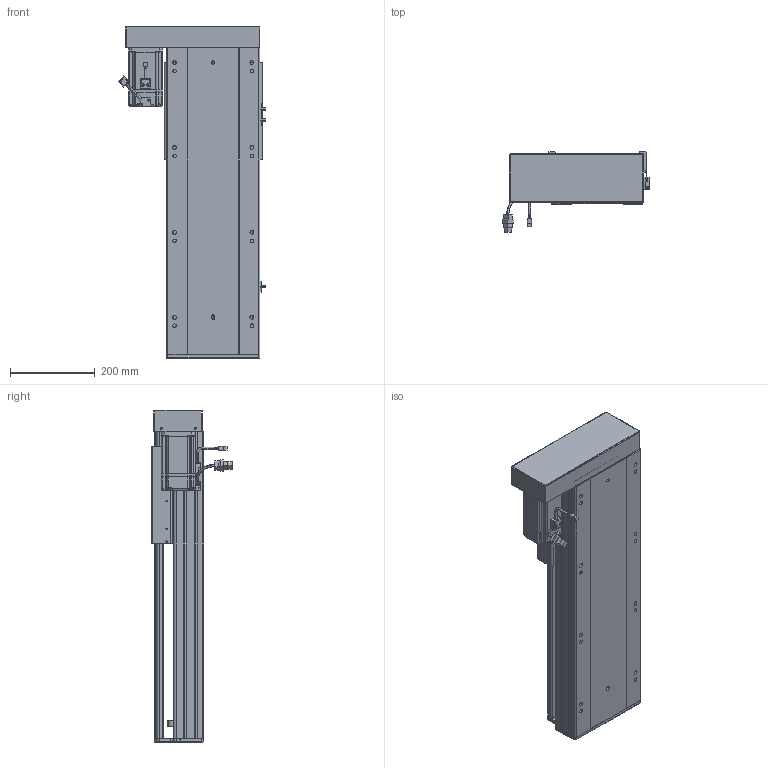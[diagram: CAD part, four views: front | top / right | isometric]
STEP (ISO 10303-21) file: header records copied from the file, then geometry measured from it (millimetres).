
FILE_DESCRIPTION (( 'STEP AP203' ), '1' );
FILE_NAME ('RY220-L2525-300-LK.SLDASM_400.step', '2022-07-04T01:46:25', ( '' ), ( '' ), 'SwSTEP 2.0', 'SolidWorks 2016', '' );
FILE_SCHEMA (( 'CONFIG_CONTROL_DESIGN' ));
Length unit declared in the file: millimetre
Products named in the file (12): RY220半封闭25-32螺母铝滑块; RY220綴裔啣; 覜茼ん672; RY220左右折电机安装板; RY220酘衵殏萇儂欶; 怢湛750W_ECMA-CX0807ES; 滅袉蝶18-10; RY220-俋离672覜茼んえ; RY220-300-蛌殏奻裔啣_400; RY220-L2525-300-LK.SLDASM_400; RY220蛌殏菁釱-300_400; 滅袉蝶18-15
Assembly tree (15 placements, depth 2):
  RY220-L2525-300-LK.SLDASM_400
    RY220蛌殏菁釱-300_400
    RY220-300-蛌殏奻裔啣_400
    怢湛750W_ECMA-CX0807ES
    滅袉蝶18-10  x2
    RY220-俋离672覜茼んえ
    覜茼ん672  x3
    RY220綴裔啣
    RY220半封闭25-32螺母铝滑块
    滅袉蝶18-15  x2
    RY220左右折电机安装板
    RY220酘衵殏萇儂欶
Bounding box: 347.44 x 189.27 x 782 mm (x, y, z)
Volume: 7680338.3 mm3; surface area: 2110938 mm2
Topology: 16 solids, 16 shells, 2017 faces, 5556 edges, 3539 vertices
Faces by surface type: plane 896, cylinder 877, cone 174, bspline 44, sphere 16, torus 10
Entity records: 66461 total; most frequent: CARTESIAN_POINT 19459, ORIENTED_EDGE 9792, DIRECTION 9080, EDGE_CURVE 4896, VERTEX_POINT 3195, AXIS2_PLACEMENT_3D 3147, VECTOR 2786, LINE 2786
